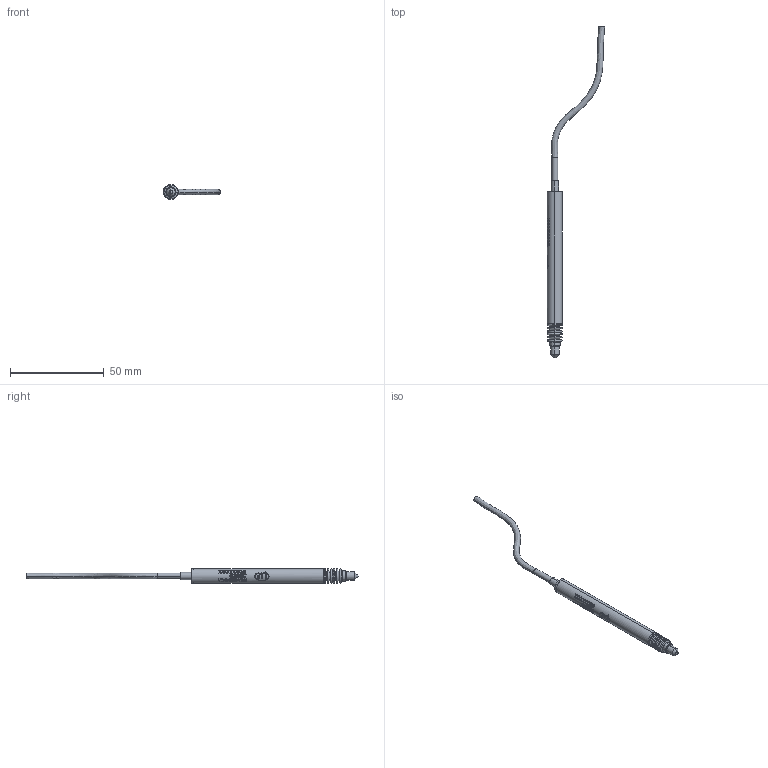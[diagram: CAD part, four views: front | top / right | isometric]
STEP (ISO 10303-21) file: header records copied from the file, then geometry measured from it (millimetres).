
FILE_DESCRIPTION((''),'2;1');
FILE_NAME('0000029077_SW0001','2012-10-10T',('11000205'),(''),'PRO/ENGINEER BY PARAMETRIC TECHNOLOGY CORPORATION, 2011180','PRO/ENGINEER BY PARAMETRIC TECHNOLOGY CORPORATION, 2011180','');
FILE_SCHEMA(('AUTOMOTIVE_DESIGN { 1 0 10303 214 1 1 1 1 }'));
Length unit declared in the file: millimetre
Products named in the file (1): 0000029077_SW0001
Bounding box: 30.59 x 177.33 x 8 mm (x, y, z)
Volume: 4773 mm3; surface area: 3435.8 mm2
Topology: 2 solids, 5 shells, 965 faces, 2677 edges, 1762 vertices
Faces by surface type: plane 829, cylinder 66, cone 34, torus 26, extrusion 6, sphere 2, bspline 2
Entity records: 39561 total; most frequent: CARTESIAN_POINT 9687, ORIENTED_EDGE 5346, DIRECTION 3706, EDGE_CURVE 2673, VERTEX_POINT 1762, AXIS2_PLACEMENT_3D 1267, B_SPLINE_CURVE_WITH_KNOTS 1203, VECTOR 1172
